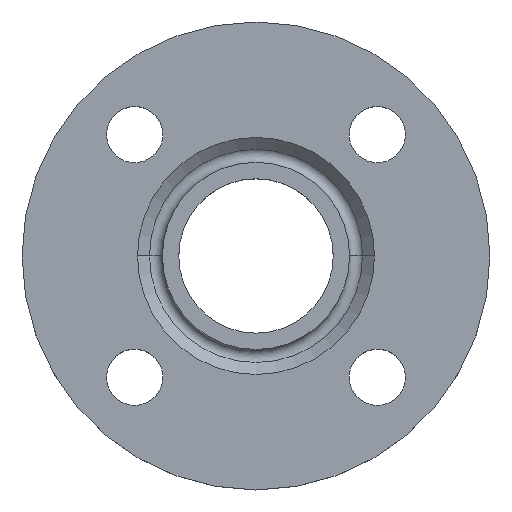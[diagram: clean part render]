
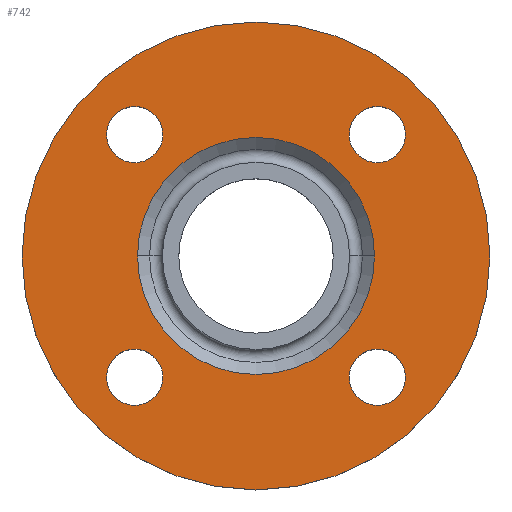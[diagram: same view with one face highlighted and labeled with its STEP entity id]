
A CAD part, top view. The second image highlights one B-rep face of the part: STEP entity #742.
In plain terms, the highlighted planar face has unit normal (0, 0, 1).
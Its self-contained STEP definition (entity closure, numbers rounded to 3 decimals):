
#3 = FACE_BOUND ( 'NONE', #498, .T. ) ;
#8 = FACE_BOUND ( 'NONE', #667, .T. ) ;
#30 = FACE_BOUND ( 'NONE', #273, .T. ) ;
#39 = DIRECTION ( 'NONE',  ( 1., 0., 0. ) ) ;
#41 = DIRECTION ( 'NONE',  ( 0., 0., -1. ) ) ;
#42 = CARTESIAN_POINT ( 'NONE',  ( -38.891, -38.891, -2. ) ) ;
#43 = DIRECTION ( 'NONE',  ( 1., 0., 0. ) ) ;
#45 = DIRECTION ( 'NONE',  ( 0., 0., 1. ) ) ;
#46 = CARTESIAN_POINT ( 'NONE',  ( 75., 0., -2. ) ) ;
#47 = PLANE ( 'NONE',  #721 ) ;
#49 = FACE_OUTER_BOUND ( 'NONE', #446, .T. ) ;
#52 = FACE_BOUND ( 'NONE', #630, .T. ) ;
#53 = FACE_BOUND ( 'NONE', #657, .T. ) ;
#81 = CARTESIAN_POINT ( 'NONE',  ( 47.891, -38.891, -2. ) ) ;
#82 = CARTESIAN_POINT ( 'NONE',  ( -47.891, -38.891, -2. ) ) ;
#88 = CARTESIAN_POINT ( 'NONE',  ( 29.891, 38.891, -2. ) ) ;
#97 = DIRECTION ( 'NONE',  ( 1., 0., 0. ) ) ;
#98 = CARTESIAN_POINT ( 'NONE',  ( -47.891, 38.891, -2. ) ) ;
#99 = CARTESIAN_POINT ( 'NONE',  ( -38., 0., -2. ) ) ;
#102 = CARTESIAN_POINT ( 'NONE',  ( 38.891, -38.891, -2. ) ) ;
#104 = DIRECTION ( 'NONE',  ( 0., 0., -1. ) ) ;
#106 = CIRCLE ( 'NONE', #108, 75. ) ;
#108 = AXIS2_PLACEMENT_3D ( 'NONE', #735, #736, #737 ) ;
#109 = CIRCLE ( 'NONE', #112, 9. ) ;
#110 = CARTESIAN_POINT ( 'NONE',  ( 38., 0., -2. ) ) ;
#112 = AXIS2_PLACEMENT_3D ( 'NONE', #738, #739, #741 ) ;
#123 = CARTESIAN_POINT ( 'NONE',  ( -75., 0., -2. ) ) ;
#128 = CARTESIAN_POINT ( 'NONE',  ( 75., 0., -2. ) ) ;
#163 = CIRCLE ( 'NONE', #169, 75. ) ;
#165 = CARTESIAN_POINT ( 'NONE',  ( -29.891, 38.891, -2. ) ) ;
#169 = AXIS2_PLACEMENT_3D ( 'NONE', #767, #769, #770 ) ;
#170 = CIRCLE ( 'NONE', #172, 38. ) ;
#172 = AXIS2_PLACEMENT_3D ( 'NONE', #772, #773, #775 ) ;
#183 = CARTESIAN_POINT ( 'NONE',  ( 47.891, 38.891, -2. ) ) ;
#190 = CARTESIAN_POINT ( 'NONE',  ( -29.891, -38.891, -2. ) ) ;
#193 = CARTESIAN_POINT ( 'NONE',  ( 29.891, -38.891, -2. ) ) ;
#224 = CIRCLE ( 'NONE', #231, 9. ) ;
#225 = EDGE_CURVE ( 'NONE', #625, #628, #106, .T. ) ;
#227 = EDGE_CURVE ( 'NONE', #531, #680, #109, .T. ) ;
#231 = AXIS2_PLACEMENT_3D ( 'NONE', #264, #321, #330 ) ;
#242 = CIRCLE ( 'NONE', #243, 9. ) ;
#243 = AXIS2_PLACEMENT_3D ( 'NONE', #336, #337, #339 ) ;
#260 = DIRECTION ( 'NONE',  ( 0., 0., -1. ) ) ;
#262 = DIRECTION ( 'NONE',  ( -1., 0., 0. ) ) ;
#264 = CARTESIAN_POINT ( 'NONE',  ( -38.891, -38.891, -2. ) ) ;
#273 = EDGE_LOOP ( 'NONE', ( #549, #551 ) ) ;
#277 = EDGE_CURVE ( 'NONE', #628, #625, #163, .T. ) ;
#281 = EDGE_CURVE ( 'NONE', #669, #658, #170, .T. ) ;
#309 = EDGE_CURVE ( 'NONE', #677, #449, #224, .T. ) ;
#310 = AXIS2_PLACEMENT_3D ( 'NONE', #102, #104, #97 ) ;
#318 = EDGE_CURVE ( 'NONE', #668, #543, #242, .T. ) ;
#321 = DIRECTION ( 'NONE',  ( 0., 0., -1. ) ) ;
#322 = AXIS2_PLACEMENT_3D ( 'NONE', #418, #260, #262 ) ;
#327 = CIRCLE ( 'NONE', #791, 9. ) ;
#328 = CIRCLE ( 'NONE', #779, 9. ) ;
#330 = DIRECTION ( 'NONE',  ( 1., 0., 0. ) ) ;
#333 = EDGE_CURVE ( 'NONE', #543, #668, #550, .T. ) ;
#334 = EDGE_CURVE ( 'NONE', #462, #676, #327, .T. ) ;
#336 = CARTESIAN_POINT ( 'NONE',  ( -38.891, 38.891, -2. ) ) ;
#337 = DIRECTION ( 'NONE',  ( 0., 0., -1. ) ) ;
#339 = DIRECTION ( 'NONE',  ( 1., 0., 0. ) ) ;
#340 = CARTESIAN_POINT ( 'NONE',  ( -38.891, 38.891, -2. ) ) ;
#343 = DIRECTION ( 'NONE',  ( 0., 0., -1. ) ) ;
#344 = DIRECTION ( 'NONE',  ( 1., 0., 0. ) ) ;
#345 = CARTESIAN_POINT ( 'NONE',  ( 38.891, 38.891, -2. ) ) ;
#346 = DIRECTION ( 'NONE',  ( 0., 0., -1. ) ) ;
#350 = DIRECTION ( 'NONE',  ( 1., 0., 0. ) ) ;
#363 = EDGE_CURVE ( 'NONE', #676, #462, #328, .T. ) ;
#366 = CARTESIAN_POINT ( 'NONE',  ( 38.891, 38.891, -2. ) ) ;
#367 = DIRECTION ( 'NONE',  ( 0., 0., -1. ) ) ;
#368 = DIRECTION ( 'NONE',  ( 1., 0., 0. ) ) ;
#418 = CARTESIAN_POINT ( 'NONE',  ( 0., 0., -2. ) ) ;
#446 = EDGE_LOOP ( 'NONE', ( #561, #562 ) ) ;
#449 = VERTEX_POINT ( 'NONE', #190 ) ;
#452 = AXIS2_PLACEMENT_3D ( 'NONE', #340, #343, #344 ) ;
#462 = VERTEX_POINT ( 'NONE', #183 ) ;
#472 = CIRCLE ( 'NONE', #545, 9. ) ;
#498 = EDGE_LOOP ( 'NONE', ( #556, #558 ) ) ;
#530 = EDGE_CURVE ( 'NONE', #658, #669, #547, .T. ) ;
#531 = VERTEX_POINT ( 'NONE', #193 ) ;
#543 = VERTEX_POINT ( 'NONE', #165 ) ;
#544 = ORIENTED_EDGE ( 'NONE', *, *, #662, .T. ) ;
#545 = AXIS2_PLACEMENT_3D ( 'NONE', #42, #41, #39 ) ;
#547 = CIRCLE ( 'NONE', #322, 38. ) ;
#548 = ORIENTED_EDGE ( 'NONE', *, *, #227, .T. ) ;
#549 = ORIENTED_EDGE ( 'NONE', *, *, #746, .T. ) ;
#550 = CIRCLE ( 'NONE', #452, 9. ) ;
#551 = ORIENTED_EDGE ( 'NONE', *, *, #309, .T. ) ;
#554 = ORIENTED_EDGE ( 'NONE', *, *, #333, .T. ) ;
#555 = ORIENTED_EDGE ( 'NONE', *, *, #318, .T. ) ;
#556 = ORIENTED_EDGE ( 'NONE', *, *, #334, .T. ) ;
#558 = ORIENTED_EDGE ( 'NONE', *, *, #363, .T. ) ;
#559 = ORIENTED_EDGE ( 'NONE', *, *, #530, .T. ) ;
#560 = ORIENTED_EDGE ( 'NONE', *, *, #281, .T. ) ;
#561 = ORIENTED_EDGE ( 'NONE', *, *, #225, .F. ) ;
#562 = ORIENTED_EDGE ( 'NONE', *, *, #277, .F. ) ;
#586 = CIRCLE ( 'NONE', #310, 9. ) ;
#625 = VERTEX_POINT ( 'NONE', #128 ) ;
#628 = VERTEX_POINT ( 'NONE', #123 ) ;
#630 = EDGE_LOOP ( 'NONE', ( #559, #560 ) ) ;
#657 = EDGE_LOOP ( 'NONE', ( #544, #548 ) ) ;
#658 = VERTEX_POINT ( 'NONE', #110 ) ;
#662 = EDGE_CURVE ( 'NONE', #680, #531, #586, .T. ) ;
#667 = EDGE_LOOP ( 'NONE', ( #554, #555 ) ) ;
#668 = VERTEX_POINT ( 'NONE', #98 ) ;
#669 = VERTEX_POINT ( 'NONE', #99 ) ;
#676 = VERTEX_POINT ( 'NONE', #88 ) ;
#677 = VERTEX_POINT ( 'NONE', #82 ) ;
#680 = VERTEX_POINT ( 'NONE', #81 ) ;
#721 = AXIS2_PLACEMENT_3D ( 'NONE', #46, #45, #43 ) ;
#735 = CARTESIAN_POINT ( 'NONE',  ( 0., 0., -2. ) ) ;
#736 = DIRECTION ( 'NONE',  ( 0., 0., -1. ) ) ;
#737 = DIRECTION ( 'NONE',  ( -1., 0., 0. ) ) ;
#738 = CARTESIAN_POINT ( 'NONE',  ( 38.891, -38.891, -2. ) ) ;
#739 = DIRECTION ( 'NONE',  ( 0., 0., -1. ) ) ;
#741 = DIRECTION ( 'NONE',  ( 1., 0., 0. ) ) ;
#742 = ADVANCED_FACE ( 'NONE', ( #53, #30, #8, #3, #52, #49 ), #47, .T. ) ;
#746 = EDGE_CURVE ( 'NONE', #449, #677, #472, .T. ) ;
#767 = CARTESIAN_POINT ( 'NONE',  ( 0., 0., -2. ) ) ;
#769 = DIRECTION ( 'NONE',  ( 0., 0., -1. ) ) ;
#770 = DIRECTION ( 'NONE',  ( -1., 0., 0. ) ) ;
#772 = CARTESIAN_POINT ( 'NONE',  ( 0., 0., -2. ) ) ;
#773 = DIRECTION ( 'NONE',  ( 0., 0., -1. ) ) ;
#775 = DIRECTION ( 'NONE',  ( -1., 0., 0. ) ) ;
#779 = AXIS2_PLACEMENT_3D ( 'NONE', #366, #367, #368 ) ;
#791 = AXIS2_PLACEMENT_3D ( 'NONE', #345, #346, #350 ) ;
